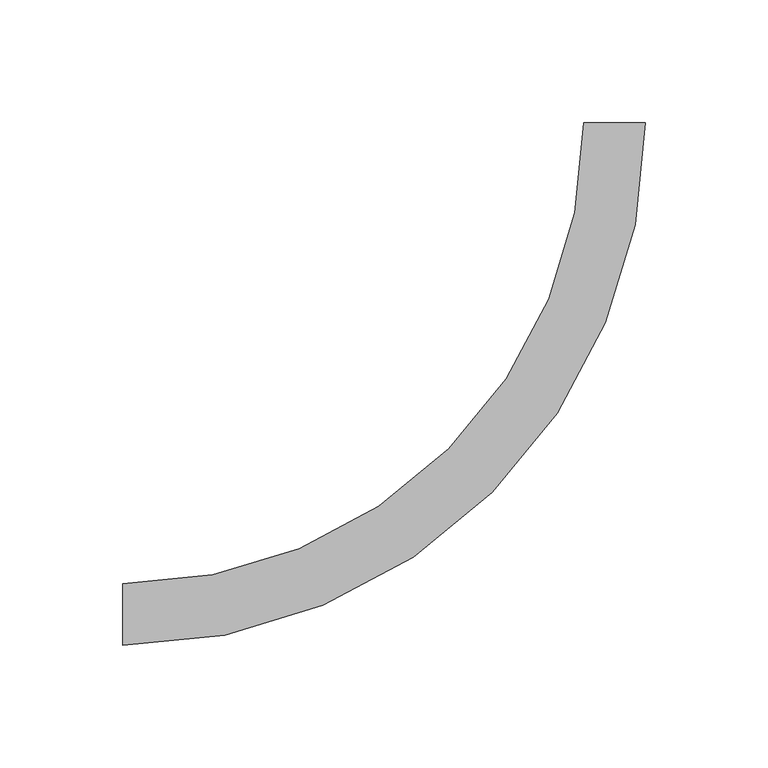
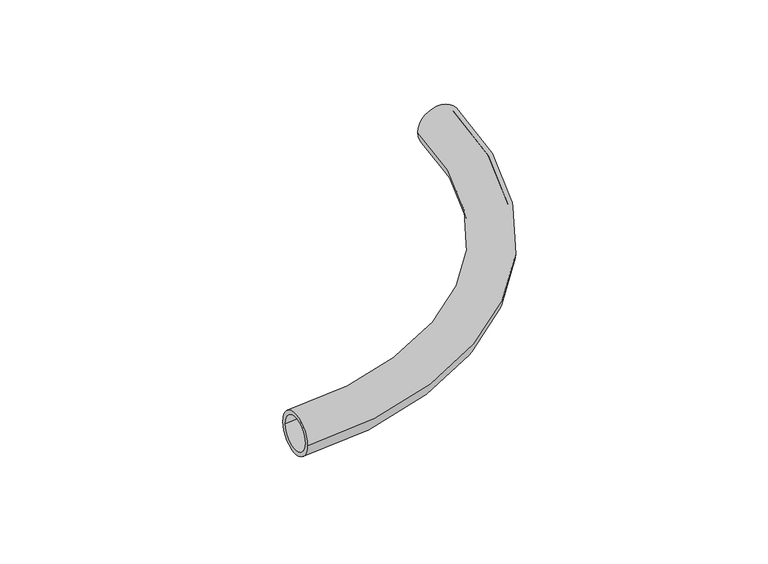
"""IFC4 building model written with IfcOpenShell, lengths in millimetres: pipe fitting geometry, FASTLOC_ML_bend : FSL ML AT."""

from ifc_helpers import new_model, si_unit, point, frame, origin, place, context, project, spatial, circle_curve, ellipse_curve, trimmed, source, transform, mapped, element, save
from ifc_brep_helpers import plane_surface, revolved_surface, advanced_brep


def pipe_fitting_bf5c4f06(model_context):
    return source(origin(), model_context, "Body", "AdvancedBrep", [
        advanced_brep(
        [(-200.0, -12.5, 0.0), (-200.0, 12.5, 0.0), (-200.0, -10.0, 0.0), (-200.0, 10.0, 0.0), (12.5, 200.0, 0.0), (-12.5, 200.0, 0.0), (10.0, 200.0, 0.0), (-10.0, 200.0, 0.0)],
        [
            (0, 1, circle_curve(frame((-200.0, 0.0, 0.0), z_axis=(-1.0, 0.0, 0.0), x_axis=(0.0, 1.0, 0.0)), 12.5)),
            (1, 0, circle_curve(frame((-200.0, 0.0, 0.0), z_axis=(-1.0, 0.0, 0.0), x_axis=(0.0, 1.0, 0.0)), 12.5)),
            (2, 3, circle_curve(frame((-200.0, 0.0, 0.0), z_axis=(1.0, 0.0, 0.0), x_axis=(0.0, 1.0, 0.0)), 10.0)),
            (3, 2, circle_curve(frame((-200.0, 0.0, 0.0), z_axis=(1.0, 0.0, 0.0), x_axis=(0.0, 1.0, 0.0)), 10.0)),
            (4, 5, circle_curve(frame((0.0, 200.0, 0.0), z_axis=(0.0, 1.0, 0.0), x_axis=(-1.0, 0.0, 0.0)), 12.5)),
            (5, 4, circle_curve(frame((0.0, 200.0, 0.0), z_axis=(0.0, 1.0, 0.0), x_axis=(-1.0, 0.0, 0.0)), 12.5)),
            (6, 7, circle_curve(frame((0.0, 200.0, 0.0), z_axis=(0.0, -1.0, 0.0), x_axis=(-1.0, 0.0, 0.0)), 10.0)),
            (7, 6, circle_curve(frame((0.0, 200.0, 0.0), z_axis=(0.0, -1.0, 0.0), x_axis=(-1.0, 0.0, 0.0)), 10.0)),
            (7, 3, circle_curve(frame((-200.0, 200.0, 0.0), z_axis=(0.0, 0.0, -1.0), x_axis=(0.0, -1.0, 0.0)), 190.0)),
            (2, 6, circle_curve(frame((-200.0, 200.0, 0.0), z_axis=(0.0, 0.0, 1.0), x_axis=(0.0, -1.0, 0.0)), 210.0)),
            (5, 1, circle_curve(frame((-200.0, 200.0, 0.0), z_axis=(0.0, 0.0, -1.0), x_axis=(0.0, -1.0, 0.0)), 187.5)),
            (0, 4, circle_curve(frame((-200.0, 200.0, 0.0), z_axis=(0.0, 0.0, 1.0), x_axis=(0.0, -1.0, 0.0)), 212.5)),
        ],
        [
            plane_surface(frame((-200.0, 0.0, 0.0), z_axis=(-1.0, 0.0, 0.0), x_axis=(0.0, 0.0, 1.0))),
            plane_surface(frame((0.0, 200.0, 0.0), z_axis=(0.0, 1.0, 0.0), x_axis=(0.0, 0.0, 1.0))),
            revolved_surface(trimmed(ellipse_curve(frame((-200.0, 0.0, 0.0), z_axis=(1.0, 0.0, 0.0), x_axis=(0.0, 1.0, 0.0)), 10.0, 10.0), [point((-200.0, -10.0, 0.0))], [point((-200.0, 10.0, 0.0))], True, "CARTESIAN"), (-200.0, 200.0, 0.0), (0.0, 0.0, 1.0)),
            revolved_surface(trimmed(ellipse_curve(frame((-200.0, 0.0, 0.0), z_axis=(1.0, 0.0, 0.0), x_axis=(0.0, 1.0, 0.0)), 10.0, 10.0), [point((-200.0, 10.0, 0.0))], [point((-200.0, -10.0, 0.0))], True, "CARTESIAN"), (-200.0, 200.0, 0.0), (0.0, 0.0, 1.0)),
            revolved_surface(trimmed(ellipse_curve(frame((-200.0, 0.0, 0.0), z_axis=(-1.0, 0.0, 0.0), x_axis=(0.0, 1.0, 0.0)), 12.5, 12.5), [point((-200.0, -12.5, 0.0))], [point((-200.0, 12.5, 0.0))], True, "CARTESIAN"), (-200.0, 200.0, 0.0), (0.0, 0.0, 1.0)),
            revolved_surface(trimmed(ellipse_curve(frame((-200.0, 0.0, 0.0), z_axis=(-1.0, 0.0, 0.0), x_axis=(0.0, 1.0, 0.0)), 12.5, 12.5), [point((-200.0, 12.5, 0.0))], [point((-200.0, -12.5, 0.0))], True, "CARTESIAN"), (-200.0, 200.0, 0.0), (0.0, 0.0, 1.0)),
        ],
        [
            (0, [[1, 2], [3, 4]]),
            (1, [[5, 6], [7, 8]]),
            (2, [[9, -3, 10, -8]]),
            (3, [[-10, -4, -9, -7]]),
            (4, [[11, -1, 12, -6]]),
            (5, [[-12, -2, -11, -5]]),
        ],
    ),
    ])


if __name__ == "__main__":
    model = new_model("IFC4")
    model_context = context("Model", 3, world=origin())
    ifc_project = project(units=[si_unit("LENGTHUNIT", "METRE", prefix="MILLI")], contexts=[model_context])
    site = spatial("IfcSite", under=ifc_project)
    building = spatial("IfcBuilding", under=site)
    placement = place(None, origin())
    pipe_fitting_shape = pipe_fitting_bf5c4f06(model_context)
    element("IfcPipeFitting", 1, ObjectType="FASTLOC_ML_bend : FSL ML AT", at=placement, inside=building, context=model_context, shape_type="MappedRepresentation", body=[
        mapped(pipe_fitting_shape, transform((0.0, 0.0, 0.0), x_axis=(1.0, 0.0, 0.0), y_axis=(0.0, 1.0, 0.0), z_axis=(0.0, 0.0, 1.0))),
    ])
    save(model, "model.ifc")
